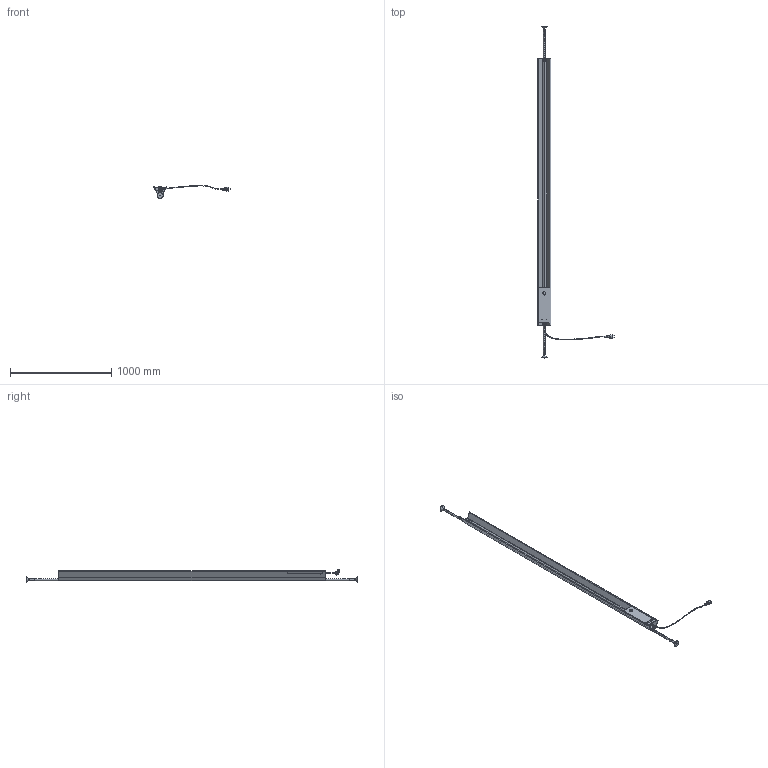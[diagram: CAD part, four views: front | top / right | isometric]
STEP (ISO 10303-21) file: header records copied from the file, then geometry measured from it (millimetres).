
FILE_DESCRIPTION (( 'STEP AP203' ), '1' );
FILE_NAME ('LT8 h.2 2630.STEP', '2024-09-20T10:50:15', ( '' ), ( '' ), 'SwSTEP 2.0', 'SolidWorks 2024', '' );
FILE_SCHEMA (( 'CONFIG_CONTROL_DESIGN' ));
Length unit declared in the file: millimetre
Products named in the file (18): ATC-T13-F118-R00; LT8 h.2 2630; ATC-T13-F201-R02 - Sito; Presa IEC Everel C14; Base GN 717-5-M8-D-ST(0); Rondelle Piatte ISO-7089_RONDELLA M3 PIANA; ATC-T13-F127-R01; ATC-T13-F102-R01 - Sito; ATC-T13-F109-R02; ATC-T13-F105-R01 - Sito; ATC-T13-F203-R00_IN POSIZIONE; Cablaggio DE 125-250VAC CL.I IEC_Default<A macchina>; ATC-T13-F108-R00; ATC-T13-F128-R00 - Sito; Elesa M8 Indexing plungers GN 717-5-M8-D-ST; Viti a Testa Bombata e Cava Esagonale ISO-7380_VITE M3X10 TBCE ISO-7380 ; ATC-T13-F126-R00; Head GN 717-5-M8-D-ST(0)
Assembly tree (23 placements, depth 3):
  LT8 h.2 2630
    Rondelle Piatte ISO-7089_RONDELLA M3 PIANA  x2
    Viti a Testa Bombata e Cava Esagonale ISO-7380_VITE M3X10 TBCE ISO-7380   x2
    Elesa M8 Indexing plungers GN 717-5-M8-D-ST  x2
      Head GN 717-5-M8-D-ST(0)
      Base GN 717-5-M8-D-ST(0)
    Presa IEC Everel C14
    ATC-T13-F201-R02 - Sito
    ATC-T13-F203-R00_IN POSIZIONE
    ATC-T13-F126-R00  x2
    ATC-T13-F102-R01 - Sito
    ATC-T13-F108-R00
    ATC-T13-F105-R01 - Sito
    ATC-T13-F109-R02  x2
    ATC-T13-F118-R00
    ATC-T13-F127-R01
    Cablaggio DE 125-250VAC CL.I IEC_Default<A macchina>
    ATC-T13-F128-R00 - Sito  x2
Bounding box: 754.6 x 3276 x 129.12 mm (x, y, z)
Volume: 4744439.1 mm3; surface area: 2026856.7 mm2
Topology: 35 solids, 39 shells, 1257 faces, 3141 edges, 1912 vertices
Faces by surface type: cylinder 441, plane 438, bspline 199, cone 128, torus 51
Entity records: 45646 total; most frequent: CARTESIAN_POINT 19422, ORIENTED_EDGE 5248, DIRECTION 4756, EDGE_CURVE 2626, AXIS2_PLACEMENT_3D 1761, VERTEX_POINT 1632, LINE 1234, VECTOR 1234
